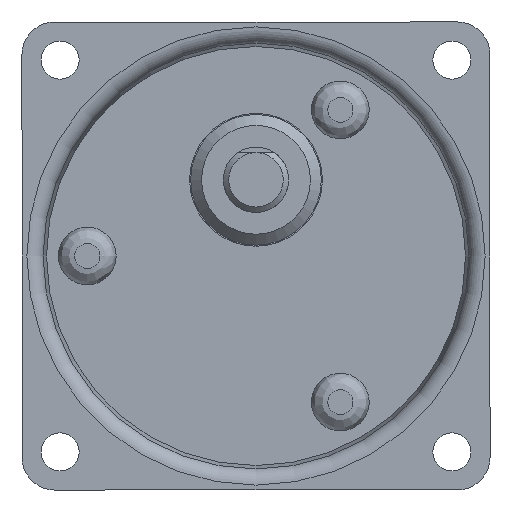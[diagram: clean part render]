
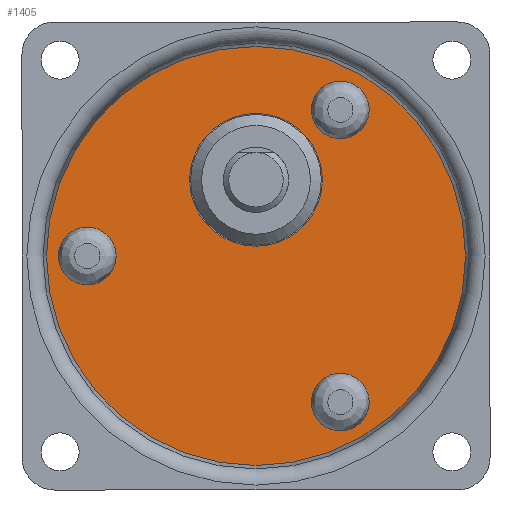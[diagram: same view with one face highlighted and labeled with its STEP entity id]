
A CAD part, front view. The second image highlights one B-rep face of the part: STEP entity #1405.
In plain terms, the highlighted planar face has unit normal (0, -1, 0).
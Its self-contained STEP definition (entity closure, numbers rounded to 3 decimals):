
#912=CARTESIAN_POINT('',(6.425,-4.65,-11.128));
#913=VERTEX_POINT('',#912);
#914=CARTESIAN_POINT('',(7.75,-4.65,-13.423));
#915=DIRECTION('',(0.0,1.0,0.0));
#916=DIRECTION('',(0.5,0.0,-0.866));
#917=AXIS2_PLACEMENT_3D('',#914,#915,#916);
#918=CIRCLE('',#917,2.65);
#919=EDGE_CURVE('',#913,#913,#918,.T.);
#1017=CARTESIAN_POINT('',(6.425,-4.65,11.128));
#1018=VERTEX_POINT('',#1017);
#1019=CARTESIAN_POINT('',(7.75,-4.65,13.423));
#1020=DIRECTION('',(0.0,1.0,0.0));
#1021=DIRECTION('',(0.5,0.0,0.866));
#1022=AXIS2_PLACEMENT_3D('',#1019,#1020,#1021);
#1023=CIRCLE('',#1022,2.65);
#1024=EDGE_CURVE('',#1018,#1018,#1023,.T.);
#1122=CARTESIAN_POINT('',(-12.85,-4.65,0.));
#1123=VERTEX_POINT('',#1122);
#1124=CARTESIAN_POINT('',(-15.5,-4.65,0.));
#1125=DIRECTION('',(0.0,1.0,0.0));
#1126=DIRECTION('',(-1.0,0.0,0.0));
#1127=AXIS2_PLACEMENT_3D('',#1124,#1125,#1126);
#1128=CIRCLE('',#1127,2.65);
#1129=EDGE_CURVE('',#1123,#1123,#1128,.T.);
#1162=CARTESIAN_POINT('',(6.1,-4.65,7.));
#1163=VERTEX_POINT('',#1162);
#1164=CARTESIAN_POINT('',(0.,-4.65,7.));
#1165=DIRECTION('',(0.0,1.0,0.0));
#1166=DIRECTION('',(-1.0,0.0,0.0));
#1167=AXIS2_PLACEMENT_3D('',#1164,#1165,#1166);
#1168=CIRCLE('',#1167,6.1);
#1169=EDGE_CURVE('',#1163,#1163,#1168,.T.);
#1247=CARTESIAN_POINT('',(0.,-4.65,-19.25));
#1248=VERTEX_POINT('',#1247);
#1249=CARTESIAN_POINT('',(0.,-4.65,0.));
#1250=DIRECTION('',(0.0,-1.0,0.0));
#1251=DIRECTION('',(0.0,0.0,1.0));
#1252=AXIS2_PLACEMENT_3D('',#1249,#1250,#1251);
#1253=CIRCLE('',#1252,19.25);
#1254=EDGE_CURVE('',#1248,#1248,#1253,.F.);
#1385=CARTESIAN_POINT('',(0.,-4.65,10.059));
#1386=DIRECTION('',(0.0,1.0,0.0));
#1387=DIRECTION('',(0.0,0.0,1.0));
#1388=AXIS2_PLACEMENT_3D('',#1385,#1386,#1387);
#1389=PLANE('',#1388);
#1390=ORIENTED_EDGE('',*,*,#1254,.F.);
#1391=EDGE_LOOP('',(#1390));
#1392=FACE_OUTER_BOUND('',#1391,.T.);
#1393=ORIENTED_EDGE('',*,*,#919,.T.);
#1394=EDGE_LOOP('',(#1393));
#1395=FACE_BOUND('',#1394,.T.);
#1396=ORIENTED_EDGE('',*,*,#1024,.T.);
#1397=EDGE_LOOP('',(#1396));
#1398=FACE_BOUND('',#1397,.T.);
#1399=ORIENTED_EDGE('',*,*,#1129,.T.);
#1400=EDGE_LOOP('',(#1399));
#1401=FACE_BOUND('',#1400,.T.);
#1402=ORIENTED_EDGE('',*,*,#1169,.T.);
#1403=EDGE_LOOP('',(#1402));
#1404=FACE_BOUND('',#1403,.T.);
#1405=ADVANCED_FACE('',(#1392,#1395,#1398,#1401,#1404),#1389,.F.);
